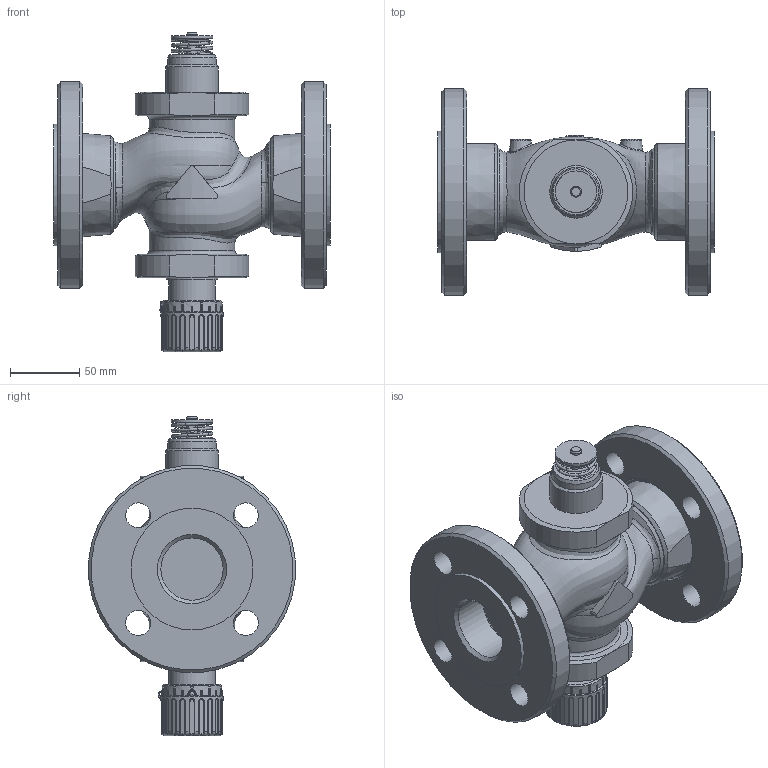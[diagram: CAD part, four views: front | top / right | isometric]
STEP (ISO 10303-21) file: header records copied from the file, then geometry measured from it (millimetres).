
FILE_DESCRIPTION(/* description */ (''),/* implementation_level */ '2;1');
FILE_NAME(/* name */ 'rv122p_dn40_F.stp',/* time_stamp */ '2012-11-05T15:33:44+01:00',/* author */ ('JENIK'),/* organization */ ('LDM'),/* preprocessor_version */ 'ST-DEVELOPER v11',/* originating_system */ 'SIEMENS PLM Software NX 7.0',/* authorisation */ '');
FILE_SCHEMA (('CONFIG_CONTROL_DESIGN'));
Length unit declared in the file: millimetre
Products named in the file (1): jeniA85B0doo
Bounding box: 200 x 149.43 x 230.8 mm (x, y, z)
Volume: 626385.8 mm3; surface area: 190016.5 mm2
Topology: 2 solids, 3 shells, 561 faces, 1384 edges, 851 vertices
Faces by surface type: cylinder 206, plane 141, bspline 97, torus 72, cone 44, sphere 1
Full cylindrical faces by diameter (mm): 2 x1, 2.5 x1, 8 x2, 18 x8, 24.5 x1, 30 x1, 33.8 x1, 35 x1, 37 x1, 38 x1, 43 x1, 45 x2, 62 x2, 62.752 x2, 65.71 x2, 66 x2, 88 x2, 150 x2
Entity records: 29408 total; most frequent: CARTESIAN_POINT 17487, ORIENTED_EDGE 2488, DIRECTION 2292, EDGE_CURVE 1244, AXIS2_PLACEMENT_3D 964, VERTEX_POINT 806, EDGE_LOOP 700, ADVANCED_FACE 559
